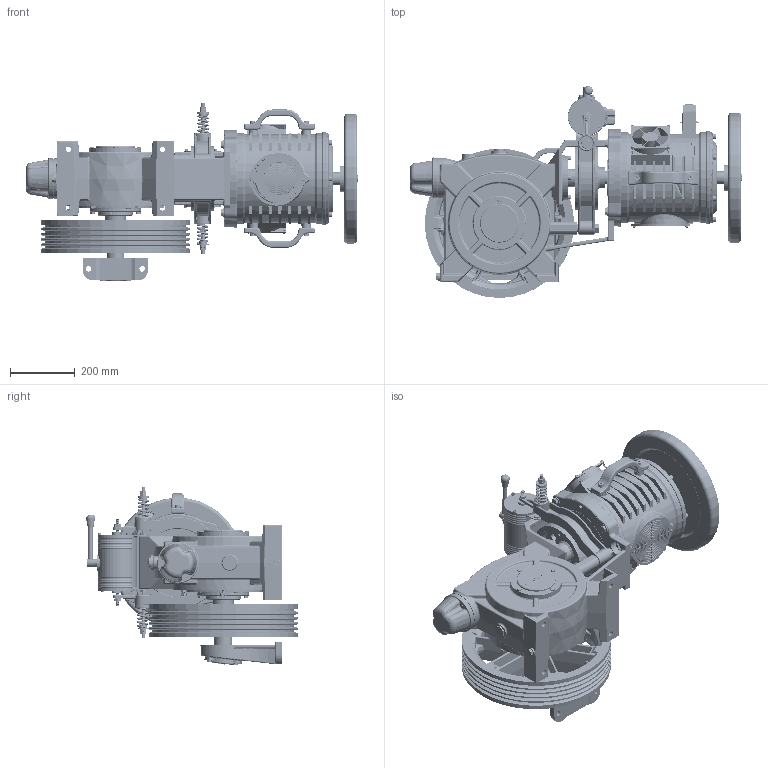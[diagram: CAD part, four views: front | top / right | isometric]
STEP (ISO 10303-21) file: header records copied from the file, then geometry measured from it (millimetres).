
FILE_DESCRIPTION (( 'STEP AP214' ), '1' );
FILE_NAME ('ELTC5504021.STEP', '2026-01-19T14:19:02', ( '' ), ( '' ), 'SwSTEP 2.0', 'SolidWorks 2023', '' );
FILE_SCHEMA (( 'AUTOMOTIVE_DESIGN' ));
Length unit declared in the file: millimetre
Products named in the file (1): ELTC5504021
Bounding box: 1022.68 x 652.36 x 549.43 mm (x, y, z)
Volume: 53333084.3 mm3; surface area: 5122491.1 mm2
Topology: 179 solids, 190 shells, 10564 faces, 26186 edges, 16056 vertices
Faces by surface type: cylinder 3636, plane 3002, bspline 1560, cone 1023, torus 986, sphere 357
Entity records: 582887 total; most frequent: CARTESIAN_POINT 348708, ORIENTED_EDGE 51864, DIRECTION 45059, EDGE_CURVE 25932, AXIS2_PLACEMENT_3D 17863, VERTEX_POINT 16044, EDGE_LOOP 11478, FACE_OUTER_BOUND 10564
